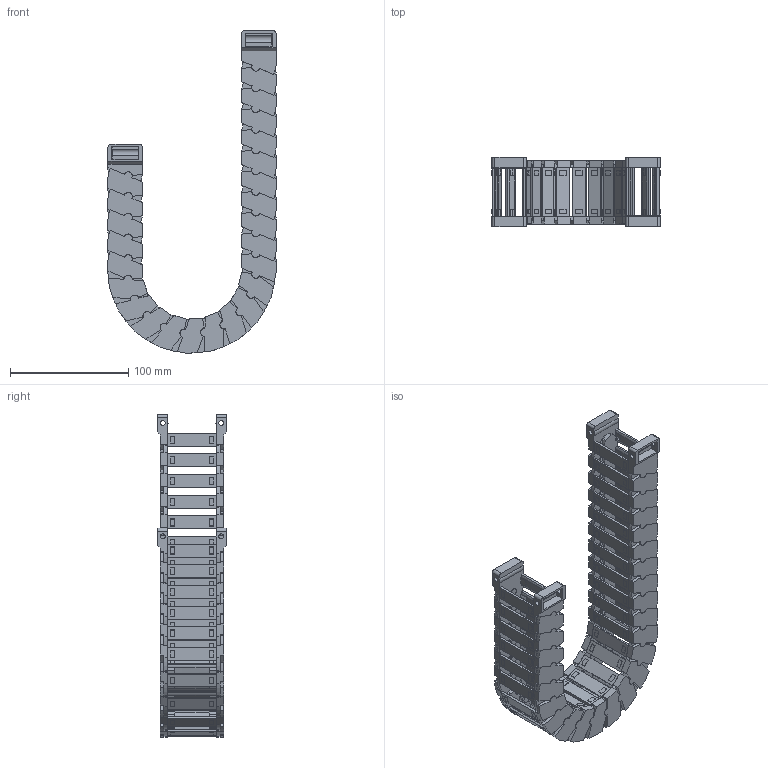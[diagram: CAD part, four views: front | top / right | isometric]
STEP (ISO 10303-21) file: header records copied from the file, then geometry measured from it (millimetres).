
FILE_DESCRIPTION(/* description */ (''),/* implementation_level */ '2;1');
FILE_NAME(/* name */ 'JY22-40-R55.stp',/* time_stamp */ '2026-07-24T13:28:39+08:00',/* author */ (''),/* organization */ (''),/* preprocessor_version */ 'ST-DEVELOPER v19.4',/* originating_system */ 'SIEMENS PLM Software NX2306.5001',/* authorisation */ '');
FILE_SCHEMA (('AP203_CONFIGURATION_CONTROLLED_3D_DESIGN_OF_MECHANICAL_PARTS_AND_ASSEMBLIES_MIM_LF { 1 0 10303 403 2 1 2}'));
Products named in the file (1): 简易图纸_Admi21609E1F0fnp
Bounding box: 142.01 x 58.5 x 272.44 mm (x, y, z)
Volume: 208669.7 mm3; surface area: 186773.5 mm2
Topology: 26 solids, 26 shells, 4302 faces, 13928 edges, 9272 vertices
Faces by surface type: plane 3222, cylinder 684, cone 200, bspline 196
Full cylindrical faces by diameter (mm): 4.2 x8, 7 x50, 7.1 x50
Entity records: 160042 total; most frequent: CARTESIAN_POINT 37943, ORIENTED_EDGE 27424, DIRECTION 23666, EDGE_CURVE 13712, LINE 9376, VECTOR 9376, VERTEX_POINT 9164, AXIS2_PLACEMENT_3D 7145
